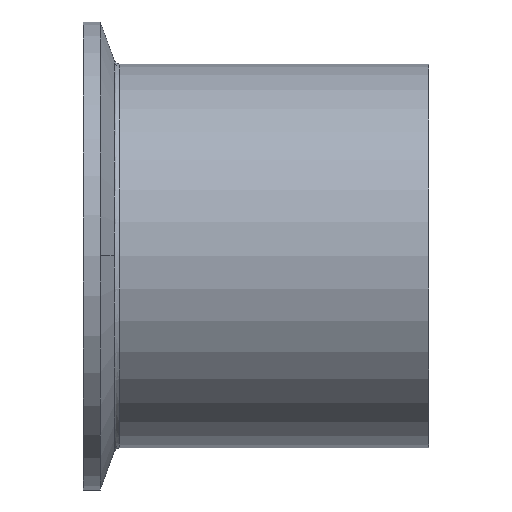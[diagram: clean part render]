
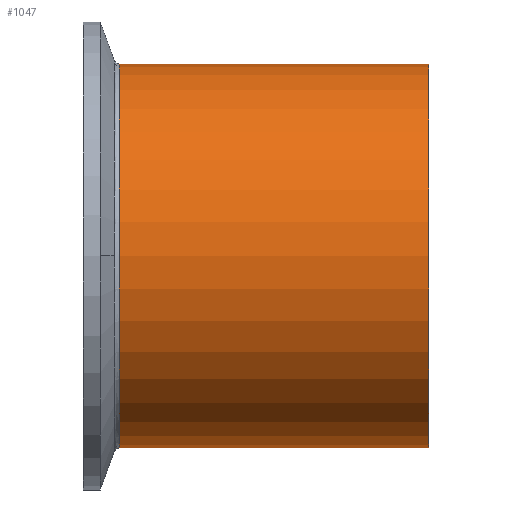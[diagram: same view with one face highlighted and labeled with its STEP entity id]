
A CAD part, top view. The second image highlights one B-rep face of the part: STEP entity #1047.
In plain terms, the highlighted cylindrical face has radius 31.75 mm (diameter 63.5 mm), a partial arc.
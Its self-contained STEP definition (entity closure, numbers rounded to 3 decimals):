
#20 = VERTEX_POINT ( 'NONE', #1447 ) ;
#30 = CARTESIAN_POINT ( 'NONE',  ( 45.786, -31.75, 0. ) ) ;
#40 = DIRECTION ( 'NONE',  ( 1., 0., 0. ) ) ;
#75 = FACE_OUTER_BOUND ( 'NONE', #738, .T. ) ;
#90 = CYLINDRICAL_SURFACE ( 'NONE', #216, 31.75 ) ;
#95 = CARTESIAN_POINT ( 'NONE',  ( -51.186, -31.75, 0. ) ) ;
#96 = EDGE_CURVE ( 'NONE', #20, #187, #416, .T. ) ;
#108 = ORIENTED_EDGE ( 'NONE', *, *, #1345, .T. ) ;
#149 = AXIS2_PLACEMENT_3D ( 'NONE', #1477, #1484, #170 ) ;
#170 = DIRECTION ( 'NONE',  ( 0., 1., 0. ) ) ;
#187 = VERTEX_POINT ( 'NONE', #95 ) ;
#191 = CARTESIAN_POINT ( 'NONE',  ( 0., 31.75, 0. ) ) ;
#216 = AXIS2_PLACEMENT_3D ( 'NONE', #821, #1485, #360 ) ;
#250 = DIRECTION ( 'NONE',  ( 1., 0., 0. ) ) ;
#261 = CARTESIAN_POINT ( 'NONE',  ( 45.786, 31.75, 0. ) ) ;
#360 = DIRECTION ( 'NONE',  ( 0., 1., 0. ) ) ;
#373 = VERTEX_POINT ( 'NONE', #798 ) ;
#375 = DIRECTION ( 'NONE',  ( 1., 0., 0. ) ) ;
#378 = DIRECTION ( 'NONE',  ( 0., 1., 0. ) ) ;
#416 = CIRCLE ( 'NONE', #149, 31.75 ) ;
#522 = VECTOR ( 'NONE', #40, 1000. ) ;
#577 = EDGE_CURVE ( 'NONE', #1207, #373, #845, .T. ) ;
#738 = EDGE_LOOP ( 'NONE', ( #1405, #108, #1063, #1276 ) ) ;
#798 = CARTESIAN_POINT ( 'NONE',  ( 0., -31.75, 0. ) ) ;
#821 = CARTESIAN_POINT ( 'NONE',  ( 45.786, 0., 0. ) ) ;
#834 = LINE ( 'NONE', #30, #522 ) ;
#836 = LINE ( 'NONE', #261, #1387 ) ;
#845 = CIRCLE ( 'NONE', #1197, 31.75 ) ;
#952 = CARTESIAN_POINT ( 'NONE',  ( 0., 0., 0. ) ) ;
#1047 = ADVANCED_FACE ( 'NONE', ( #75 ), #90, .T. ) ;
#1063 = ORIENTED_EDGE ( 'NONE', *, *, #577, .F. ) ;
#1197 = AXIS2_PLACEMENT_3D ( 'NONE', #952, #250, #378 ) ;
#1207 = VERTEX_POINT ( 'NONE', #191 ) ;
#1276 = ORIENTED_EDGE ( 'NONE', *, *, #1490, .F. ) ;
#1345 = EDGE_CURVE ( 'NONE', #187, #373, #834, .T. ) ;
#1387 = VECTOR ( 'NONE', #375, 1000. ) ;
#1405 = ORIENTED_EDGE ( 'NONE', *, *, #96, .T. ) ;
#1447 = CARTESIAN_POINT ( 'NONE',  ( -51.186, 31.75, 0. ) ) ;
#1477 = CARTESIAN_POINT ( 'NONE',  ( -51.186, 0., 0. ) ) ;
#1484 = DIRECTION ( 'NONE',  ( 1., 0., 0. ) ) ;
#1485 = DIRECTION ( 'NONE',  ( 1., 0., 0. ) ) ;
#1490 = EDGE_CURVE ( 'NONE', #20, #1207, #836, .T. ) ;
